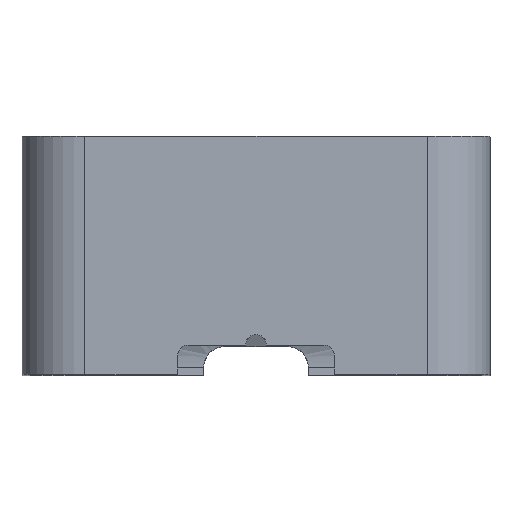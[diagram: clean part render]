
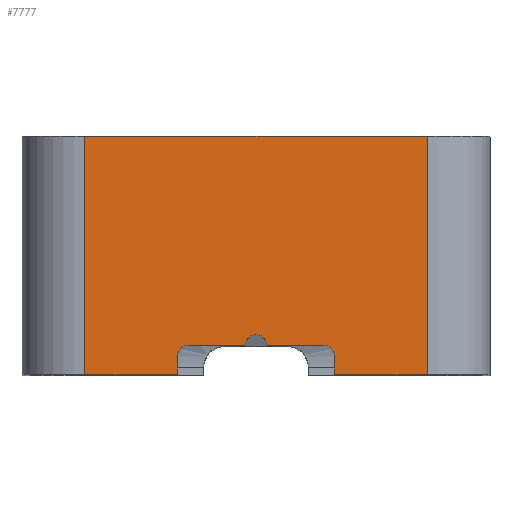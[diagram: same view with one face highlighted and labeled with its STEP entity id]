
A CAD part, top view. The second image highlights one B-rep face of the part: STEP entity #7777.
In plain terms, the highlighted planar face has unit normal (0, 0, 1).
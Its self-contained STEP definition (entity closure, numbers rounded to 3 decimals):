
#78=PLANE('',#8240);
#495=FACE_OUTER_BOUND('',#914,.T.);
#914=EDGE_LOOP('',(#6952,#6953,#6954,#6955,#6956,#6957,#6958,#6959,#6960,
#6961,#6962,#6963));
#958=CIRCLE('',#8179,1.);
#980=CIRCLE('',#8233,1.);
#981=CIRCLE('',#8236,1.);
#2046=LINE('',#21492,#2468);
#2075=LINE('',#26864,#2497);
#2078=LINE('',#26869,#2500);
#2081=LINE('',#26873,#2503);
#2095=LINE('',#27044,#2517);
#2127=LINE('',#32484,#2549);
#2128=LINE('',#32487,#2550);
#2131=LINE('',#32491,#2553);
#2134=LINE('',#32495,#2556);
#2468=VECTOR('',#9262,10.);
#2497=VECTOR('',#9377,10.);
#2500=VECTOR('',#9382,10.);
#2503=VECTOR('',#9387,10.);
#2517=VECTOR('',#9425,10.);
#2549=VECTOR('',#9543,10.);
#2550=VECTOR('',#9546,10.);
#2553=VECTOR('',#9551,10.);
#2556=VECTOR('',#9556,10.);
#3244=VERTEX_POINT('',#21490);
#3245=VERTEX_POINT('',#21491);
#3294=VERTEX_POINT('',#26856);
#3295=VERTEX_POINT('',#26857);
#3296=VERTEX_POINT('',#26862);
#3297=VERTEX_POINT('',#26867);
#3319=VERTEX_POINT('',#27042);
#3320=VERTEX_POINT('',#27043);
#3360=VERTEX_POINT('',#32473);
#3361=VERTEX_POINT('',#32478);
#3362=VERTEX_POINT('',#32479);
#3363=VERTEX_POINT('',#32486);
#4361=EDGE_CURVE('',#3244,#3245,#2046,.T.);
#4444=EDGE_CURVE('',#3294,#3295,#958,.T.);
#4448=EDGE_CURVE('',#3296,#3294,#2075,.T.);
#4451=EDGE_CURVE('',#3297,#3295,#2078,.T.);
#4454=EDGE_CURVE('',#3297,#3244,#2081,.T.);
#4482=EDGE_CURVE('',#3319,#3320,#2095,.T.);
#4565=EDGE_CURVE('',#3360,#3296,#980,.T.);
#4567=EDGE_CURVE('',#3361,#3362,#981,.T.);
#4570=EDGE_CURVE('',#3360,#3361,#2127,.T.);
#4571=EDGE_CURVE('',#3363,#3362,#2128,.T.);
#4574=EDGE_CURVE('',#3363,#3319,#2131,.T.);
#4577=EDGE_CURVE('',#3320,#3245,#2134,.T.);
#6952=ORIENTED_EDGE('',*,*,#4574,.F.);
#6953=ORIENTED_EDGE('',*,*,#4571,.T.);
#6954=ORIENTED_EDGE('',*,*,#4567,.F.);
#6955=ORIENTED_EDGE('',*,*,#4570,.F.);
#6956=ORIENTED_EDGE('',*,*,#4565,.T.);
#6957=ORIENTED_EDGE('',*,*,#4448,.T.);
#6958=ORIENTED_EDGE('',*,*,#4444,.T.);
#6959=ORIENTED_EDGE('',*,*,#4451,.F.);
#6960=ORIENTED_EDGE('',*,*,#4454,.T.);
#6961=ORIENTED_EDGE('',*,*,#4361,.T.);
#6962=ORIENTED_EDGE('',*,*,#4577,.F.);
#6963=ORIENTED_EDGE('',*,*,#4482,.F.);
#7777=ADVANCED_FACE('',(#495),#78,.T.);
#8179=AXIS2_PLACEMENT_3D('',#26858,#9370,#9371);
#8233=AXIS2_PLACEMENT_3D('',#32474,#9530,#9531);
#8236=AXIS2_PLACEMENT_3D('',#32480,#9537,#9538);
#8240=AXIS2_PLACEMENT_3D('',#32494,#9554,#9555);
#9262=DIRECTION('',(0.,1.,0.));
#9370=DIRECTION('center_axis',(0.,0.,
-1.));
#9371=DIRECTION('ref_axis',(0.,1.,0.));
#9377=DIRECTION('',(1.,0.,0.));
#9382=DIRECTION('',(0.,1.,0.));
#9387=DIRECTION('',(1.,0.,0.));
#9425=DIRECTION('',(0.,1.,0.));
#9530=DIRECTION('center_axis',(0.,0.,-1.));
#9531=DIRECTION('ref_axis',(-1.,0.,0.));
#9537=DIRECTION('center_axis',(0.,0.,
1.));
#9538=DIRECTION('ref_axis',(0.,1.,0.));
#9543=DIRECTION('',(-1.,0.,0.));
#9546=DIRECTION('',(0.,1.,0.));
#9551=DIRECTION('',(-1.,0.,0.));
#9554=DIRECTION('center_axis',(0.,0.,1.));
#9555=DIRECTION('ref_axis',(1.,0.,0.));
#9556=DIRECTION('',(1.,0.,0.));
#21490=CARTESIAN_POINT('',(-46.753,4.614,68.185));
#21491=CARTESIAN_POINT('',(-46.753,27.414,68.185));
#21492=CARTESIAN_POINT('',(-46.753,5.414,68.185));
#26856=CARTESIAN_POINT('',(-56.653,7.414,68.185));
#26857=CARTESIAN_POINT('',(-55.653,6.414,68.185));
#26858=CARTESIAN_POINT('Origin',(-56.653,6.414,68.185));
#26862=CARTESIAN_POINT('',(-62.153,7.414,68.185));
#26864=CARTESIAN_POINT('',(-69.653,7.414,68.185));
#26867=CARTESIAN_POINT('',(-55.653,4.614,68.185));
#26869=CARTESIAN_POINT('',(-55.653,5.414,68.185));
#26873=CARTESIAN_POINT('',(-75.653,4.614,68.185));
#27042=CARTESIAN_POINT('',(-79.553,4.614,68.185));
#27043=CARTESIAN_POINT('',(-79.553,27.414,68.185));
#27044=CARTESIAN_POINT('',(-79.553,5.414,68.185));
#32473=CARTESIAN_POINT('',(-64.153,7.414,68.185));
#32474=CARTESIAN_POINT('Origin',(-63.153,7.414,68.185));
#32478=CARTESIAN_POINT('',(-69.653,7.414,68.185));
#32479=CARTESIAN_POINT('',(-70.653,6.414,68.185));
#32480=CARTESIAN_POINT('Origin',(-69.653,6.414,68.185));
#32484=CARTESIAN_POINT('',(-56.653,7.414,68.185));
#32486=CARTESIAN_POINT('',(-70.653,4.614,68.185));
#32487=CARTESIAN_POINT('',(-70.653,5.414,68.185));
#32491=CARTESIAN_POINT('',(-50.653,4.614,68.185));
#32494=CARTESIAN_POINT('Origin',(-55.653,5.414,68.185));
#32495=CARTESIAN_POINT('',(-99.553,27.414,68.185));
